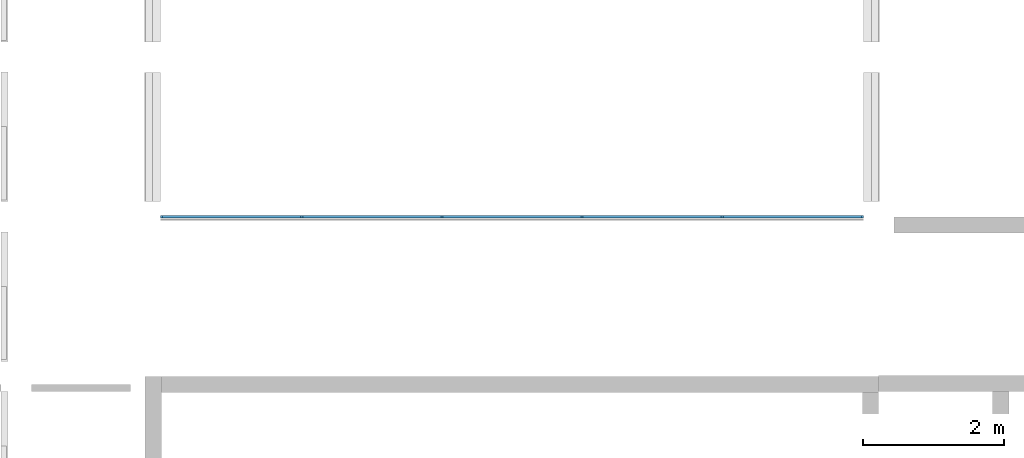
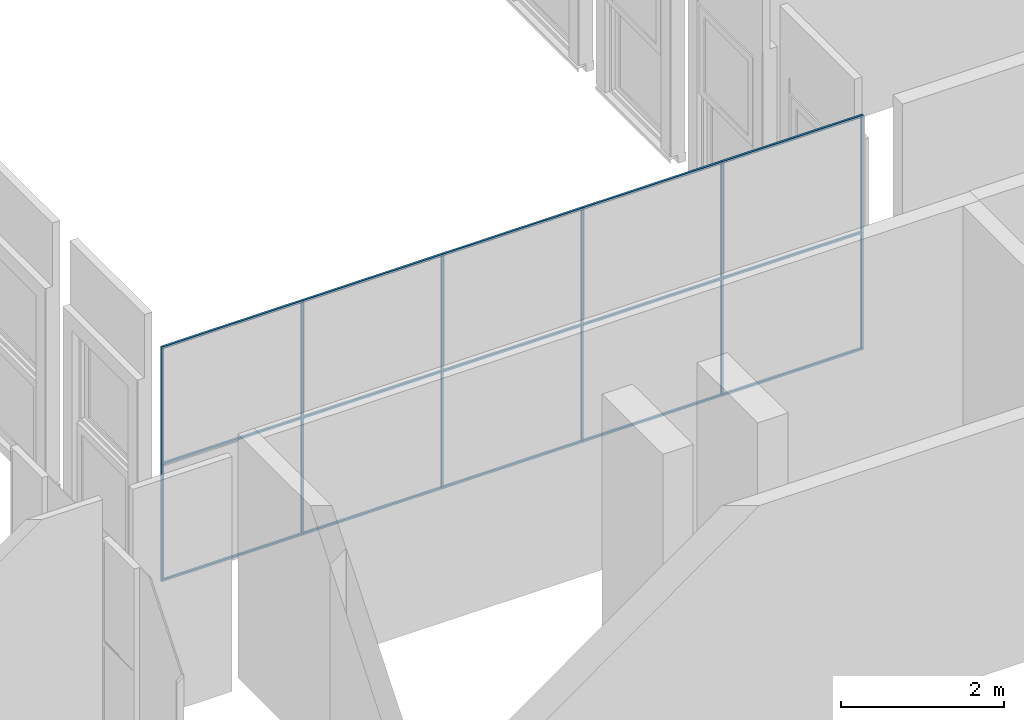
# One storey, part 1 of 13: 27 members, 1 element without a shape of its own.
"""IFC2X3 building model written with IfcOpenShell, lengths in millimetres."""

from ifc_helpers import new_model, entity, si_unit, converted_unit, derived_unit, direction, frame, origin, origin_2d_with_axis, place, context, subcontext, project, spatial, rectangle, extrude, source, transform, mapped, material, type_object, type_shapes, element, aggregate, save


model = new_model("IFC2X3")

# Units and contexts
model_context = context("Model", 3, precision=0.01, world=origin(), true_north=direction((6.12303176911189e-17, 1.0)))
body_context = subcontext(model_context, "Body", "Model", "MODEL_VIEW")
ifc_project = project(units=[si_unit("LENGTHUNIT", "METRE", prefix="MILLI"), si_unit("AREAUNIT", "SQUARE_METRE"), si_unit("VOLUMEUNIT", "CUBIC_METRE"), converted_unit("PLANEANGLEUNIT", "DEGREE", entity("IfcRatioMeasure", 0.0174532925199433), si_unit("PLANEANGLEUNIT", "RADIAN"), dimensions=[0, 0, 0, 0, 0, 0, 0]), si_unit("MASSUNIT", "GRAM", prefix="KILO"), derived_unit("MASSDENSITYUNIT", [(si_unit("MASSUNIT", "GRAM", prefix="KILO"), 1), (si_unit("LENGTHUNIT", "METRE"), -3)]), derived_unit("MOMENTOFINERTIAUNIT", [(si_unit("LENGTHUNIT", "METRE"), 4)]), si_unit("TIMEUNIT", "SECOND"), si_unit("FREQUENCYUNIT", "HERTZ"), si_unit("THERMODYNAMICTEMPERATUREUNIT", "DEGREE_CELSIUS"), derived_unit("THERMALTRANSMITTANCEUNIT", [(si_unit("MASSUNIT", "GRAM", prefix="KILO"), 1), (si_unit("THERMODYNAMICTEMPERATUREUNIT", "KELVIN"), -1), (si_unit("TIMEUNIT", "SECOND"), -3)]), derived_unit("VOLUMETRICFLOWRATEUNIT", [(si_unit("LENGTHUNIT", "METRE"), 3), (si_unit("TIMEUNIT", "SECOND"), -1)]), si_unit("ELECTRICCURRENTUNIT", "AMPERE"), si_unit("ELECTRICVOLTAGEUNIT", "VOLT"), si_unit("POWERUNIT", "WATT"), si_unit("FORCEUNIT", "NEWTON", prefix="KILO"), si_unit("ILLUMINANCEUNIT", "LUX"), si_unit("LUMINOUSFLUXUNIT", "LUMEN"), si_unit("LUMINOUSINTENSITYUNIT", "CANDELA"), derived_unit("USERDEFINED", [(si_unit("MASSUNIT", "GRAM", prefix="KILO"), -1), (si_unit("LENGTHUNIT", "METRE"), -2), (si_unit("TIMEUNIT", "SECOND"), 3), (si_unit("LUMINOUSFLUXUNIT", "LUMEN"), 1)]), derived_unit("LINEARVELOCITYUNIT", [(si_unit("LENGTHUNIT", "METRE"), 1), (si_unit("TIMEUNIT", "SECOND"), -1)]), si_unit("PRESSUREUNIT", "PASCAL"), derived_unit("USERDEFINED", [(si_unit("LENGTHUNIT", "METRE"), -2), (si_unit("MASSUNIT", "GRAM", prefix="KILO"), 1), (si_unit("TIMEUNIT", "SECOND"), -2)]), derived_unit("LINEARFORCEUNIT", [(si_unit("MASSUNIT", "GRAM", prefix="KILO"), 1), (si_unit("LENGTHUNIT", "METRE"), 1), (si_unit("TIMEUNIT", "SECOND"), -2), (si_unit("LENGTHUNIT", "METRE"), -1)]), derived_unit("PLANARFORCEUNIT", [(si_unit("MASSUNIT", "GRAM", prefix="KILO"), 1), (si_unit("LENGTHUNIT", "METRE"), 1), (si_unit("TIMEUNIT", "SECOND"), -2), (si_unit("LENGTHUNIT", "METRE"), -2)])], contexts=[model_context])

# Site, building, storey
site_placement = place(None, frame((10627.5135316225, 21939.0796949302, 0.0)))
site = spatial("IfcSite", under=ifc_project, at=site_placement, Name="Default", CompositionType="ELEMENT")
building_placement = place(site_placement, origin())
building = spatial("IfcBuilding", under=site, at=building_placement, CompositionType="ELEMENT")
storey_placement = place(building_placement, frame((0.0, 0.0, 7320.0)))
storey = spatial("IfcBuildingStorey", under=building, at=storey_placement, Name="R+2", CompositionType="ELEMENT", Elevation=7320.0)

# Curtain wall, members
curtain_wall_type = type_object("IfcCurtainWallType", Name="Curtain Wall:Curtain_Wall-Exterior_Glazing", PredefinedType="NOTDEFINED")
curtain_wall_placement = place(storey_placement, frame((0.0, 0.0, -7320.0)))
curtain_wall = element("IfcCurtainWall", 1, at=curtain_wall_placement, inside=storey, type_object=curtain_wall_type, Name="Curtain Wall:Curtain_Wall-Exterior_Glazing", ObjectType="Curtain Wall:Curtain_Wall-Exterior_Glazing")
ifc_material = material(Name="Aluminium")
member_type_1 = type_object("IfcMemberType", Name="Rectangular Mullion:30mm_Square", PredefinedType="MULLION", material=ifc_material)
shared_shape_1 = source(origin(), body_context, "Body", "SweptSolid", [
    extrude(rectangle(XDim=30.0, YDim=30.0, at=origin_2d_with_axis()), frame((-15.0, 0.0, -1999.0), z_axis=(0.0, 0.0, 1.0), x_axis=(0.0, -1.0, 0.0)), (0.0, 0.0, 1.0), 1999.00000018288),
])
type_shapes(member_type_1, [shared_shape_1])
member_1_placement = place(storey_placement, frame((1797.4864683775, -15159.0796949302, 3520.0), z_axis=(-1.0, 0.0, 0.0), x_axis=(0.0, 0.0, 1.0)))
member_1 = element("IfcMember", 2, at=member_1_placement, type_object=member_type_1, material=ifc_material, Name="Rectangular Mullion:30mm_Square", ObjectType="Rectangular Mullion:30mm_Square", context=body_context, shape_type="MappedRepresentation", body=[
    mapped(shared_shape_1, transform((0.0, 0.0, 0.0), scale=1.0)),
])
member_type_2 = type_object("IfcMemberType", Name="Rectangular Mullion:30mm_Square", PredefinedType="MULLION", material=ifc_material)
shared_shape_2 = source(origin(), body_context, "Body", "SweptSolid", [
    extrude(rectangle(XDim=30.0, YDim=30.0, at=origin_2d_with_axis()), frame((-15.0, 0.0, -1999.0), z_axis=(0.0, 0.0, 1.0), x_axis=(0.0, -1.0, 0.0)), (0.0, 0.0, 1.0), 1999.00000018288),
])
type_shapes(member_type_2, [shared_shape_2])
member_2_placement = place(storey_placement, frame((9748.48646819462, -15159.0796949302, 3520.0), z_axis=(-1.0, 0.0, 0.0), x_axis=(0.0, 0.0, 1.0)))
member_2 = element("IfcMember", 3, at=member_2_placement, type_object=member_type_2, material=ifc_material, Name="Rectangular Mullion:30mm_Square", ObjectType="Rectangular Mullion:30mm_Square", context=body_context, shape_type="MappedRepresentation", body=[
    mapped(shared_shape_2, transform((0.0, 0.0, 0.0), scale=1.0)),
])
member_type_3 = type_object("IfcMemberType", Name="Rectangular Mullion:30mm_Square", PredefinedType="MULLION", material=ifc_material)
shared_shape_3 = source(origin(), body_context, "Body", "SweptSolid", [
    extrude(rectangle(XDim=30.0, YDim=30.0, at=origin_2d_with_axis()), frame((-15.0, 0.0, -1984.0), z_axis=(0.0, 0.0, 1.0), x_axis=(0.0, -1.0, 0.0)), (0.0, 0.0, 1.0), 1983.99999987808),
])
type_shapes(member_type_3, [shared_shape_3])
member_3_placement = place(storey_placement, frame((7764.48646831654, -15159.0796949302, 3520.0), z_axis=(-1.0, 0.0, 0.0), x_axis=(0.0, 0.0, 1.0)))
member_3 = element("IfcMember", 4, at=member_3_placement, type_object=member_type_3, material=ifc_material, Name="Rectangular Mullion:30mm_Square", ObjectType="Rectangular Mullion:30mm_Square", context=body_context, shape_type="MappedRepresentation", body=[
    mapped(shared_shape_3, transform((0.0, 0.0, 0.0), scale=1.0)),
])
member_4_placement = place(storey_placement, frame((5780.48646843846, -15159.0796949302, 3520.0), z_axis=(-1.0, 0.0, 0.0), x_axis=(0.0, 0.0, 1.0)))
member_4 = element("IfcMember", 5, at=member_4_placement, type_object=member_type_3, material=ifc_material, Name="Rectangular Mullion:30mm_Square", ObjectType="Rectangular Mullion:30mm_Square", context=body_context, shape_type="MappedRepresentation", body=[
    mapped(shared_shape_3, transform((0.0, 0.0, 0.0), scale=1.0)),
])
member_5_placement = place(storey_placement, frame((3796.48646856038, -15159.0796949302, 3520.0), z_axis=(-1.0, 0.0, 0.0), x_axis=(0.0, 0.0, 1.0)))
member_5 = element("IfcMember", 6, at=member_5_placement, type_object=member_type_3, material=ifc_material, Name="Rectangular Mullion:30mm_Square", ObjectType="Rectangular Mullion:30mm_Square", context=body_context, shape_type="MappedRepresentation", body=[
    mapped(shared_shape_3, transform((0.0, 0.0, 0.0), scale=1.0)),
])
member_type_4 = type_object("IfcMemberType", Name="Rectangular Mullion:30mm_Square", PredefinedType="MULLION", material=ifc_material)
shared_shape_4 = source(origin(), body_context, "Body", "SweptSolid", [
    extrude(rectangle(XDim=30.0, YDim=30.0, at=origin_2d_with_axis()), frame((-15.0, 0.0, -1999.0), z_axis=(0.0, 0.0, 1.0), x_axis=(0.0, -1.0, 0.0)), (0.0, 0.0, 1.0), 1999.00000018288),
])
type_shapes(member_type_4, [shared_shape_4])
member_6_placement = place(storey_placement, frame((11747.4864683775, -15159.0796949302, 0.0), z_axis=(1.0, 0.0, 0.0), x_axis=(0.0, 0.0, -1.0)))
member_6 = element("IfcMember", 7, at=member_6_placement, type_object=member_type_4, material=ifc_material, Name="Rectangular Mullion:30mm_Square", ObjectType="Rectangular Mullion:30mm_Square", context=body_context, shape_type="MappedRepresentation", body=[
    mapped(shared_shape_4, transform((0.0, 0.0, 0.0), scale=1.0)),
])
member_type_5 = type_object("IfcMemberType", Name="Rectangular Mullion:30mm_Square", PredefinedType="MULLION", material=ifc_material)
shared_shape_5 = source(origin(), body_context, "Body", "SweptSolid", [
    extrude(rectangle(XDim=30.0, YDim=30.0, at=origin_2d_with_axis()), frame((-15.0, 0.0, -1984.0), z_axis=(0.0, 0.0, 1.0), x_axis=(0.0, -1.0, 0.0)), (0.0, 0.0, 1.0), 1983.99999987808),
])
type_shapes(member_type_5, [shared_shape_5])
member_7_placement = place(storey_placement, frame((9748.48646819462, -15159.0796949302, 0.0), z_axis=(1.0, 0.0, 0.0), x_axis=(0.0, 0.0, -1.0)))
member_7 = element("IfcMember", 8, at=member_7_placement, type_object=member_type_5, material=ifc_material, Name="Rectangular Mullion:30mm_Square", ObjectType="Rectangular Mullion:30mm_Square", context=body_context, shape_type="MappedRepresentation", body=[
    mapped(shared_shape_5, transform((0.0, 0.0, 0.0), scale=1.0)),
])
member_8_placement = place(storey_placement, frame((7764.48646831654, -15159.0796949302, 0.0), z_axis=(1.0, 0.0, 0.0), x_axis=(0.0, 0.0, -1.0)))
member_8 = element("IfcMember", 9, at=member_8_placement, type_object=member_type_5, material=ifc_material, Name="Rectangular Mullion:30mm_Square", ObjectType="Rectangular Mullion:30mm_Square", context=body_context, shape_type="MappedRepresentation", body=[
    mapped(shared_shape_5, transform((0.0, 0.0, 0.0), scale=1.0)),
])
member_9_placement = place(storey_placement, frame((5780.48646843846, -15159.0796949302, 0.0), z_axis=(1.0, 0.0, 0.0), x_axis=(0.0, 0.0, -1.0)))
member_9 = element("IfcMember", 10, at=member_9_placement, type_object=member_type_5, material=ifc_material, Name="Rectangular Mullion:30mm_Square", ObjectType="Rectangular Mullion:30mm_Square", context=body_context, shape_type="MappedRepresentation", body=[
    mapped(shared_shape_5, transform((0.0, 0.0, 0.0), scale=1.0)),
])
member_type_6 = type_object("IfcMemberType", Name="Rectangular Mullion:30mm_Square", PredefinedType="MULLION", material=ifc_material)
shared_shape_6 = source(origin(), body_context, "Body", "SweptSolid", [
    extrude(rectangle(XDim=30.0, YDim=30.0, at=origin_2d_with_axis()), frame((-15.0, 0.0, -1999.0), z_axis=(0.0, 0.0, 1.0), x_axis=(0.0, -1.0, 0.0)), (0.0, 0.0, 1.0), 1999.00000018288),
])
type_shapes(member_type_6, [shared_shape_6])
member_10_placement = place(storey_placement, frame((3796.48646856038, -15159.0796949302, 0.0), z_axis=(1.0, 0.0, 0.0), x_axis=(0.0, 0.0, -1.0)))
member_10 = element("IfcMember", 11, at=member_10_placement, type_object=member_type_6, material=ifc_material, Name="Rectangular Mullion:30mm_Square", ObjectType="Rectangular Mullion:30mm_Square", context=body_context, shape_type="MappedRepresentation", body=[
    mapped(shared_shape_6, transform((0.0, 0.0, 0.0), scale=1.0)),
])
member_type_7 = type_object("IfcMemberType", Name="Rectangular Mullion:30mm_Square", PredefinedType="MULLION", material=ifc_material)
shared_shape_7 = source(origin(), body_context, "Body", "SweptSolid", [
    extrude(rectangle(XDim=30.0, YDim=30.0, at=origin_2d_with_axis()), frame((0.0, 0.0, -1954.0), z_axis=(0.0, 0.0, 1.0), x_axis=(0.0, -1.0, 0.0)), (0.0, 0.0, 1.0), 1954.00000018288),
])
type_shapes(member_type_7, [shared_shape_7])
member_11_placement = place(storey_placement, frame((9763.48646819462, -15159.0796949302, 1760.0), z_axis=(-1.0, 0.0, 0.0), x_axis=(0.0, 0.0, 1.0)))
member_11 = element("IfcMember", 12, at=member_11_placement, type_object=member_type_7, material=ifc_material, Name="Rectangular Mullion:30mm_Square", ObjectType="Rectangular Mullion:30mm_Square", context=body_context, shape_type="MappedRepresentation", body=[
    mapped(shared_shape_7, transform((0.0, 0.0, 0.0), scale=1.0)),
])
member_12_placement = place(storey_placement, frame((7779.48646831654, -15159.0796949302, 1760.0), z_axis=(-1.0, 0.0, 0.0), x_axis=(0.0, 0.0, 1.0)))
member_12 = element("IfcMember", 13, at=member_12_placement, type_object=member_type_7, material=ifc_material, Name="Rectangular Mullion:30mm_Square", ObjectType="Rectangular Mullion:30mm_Square", context=body_context, shape_type="MappedRepresentation", body=[
    mapped(shared_shape_7, transform((0.0, 0.0, 0.0), scale=1.0)),
])
member_13_placement = place(storey_placement, frame((5795.48646843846, -15159.0796949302, 1760.0), z_axis=(-1.0, 0.0, 0.0), x_axis=(0.0, 0.0, 1.0)))
member_13 = element("IfcMember", 14, at=member_13_placement, type_object=member_type_7, material=ifc_material, Name="Rectangular Mullion:30mm_Square", ObjectType="Rectangular Mullion:30mm_Square", context=body_context, shape_type="MappedRepresentation", body=[
    mapped(shared_shape_7, transform((0.0, 0.0, 0.0), scale=1.0)),
])
member_14_placement = place(storey_placement, frame((3811.48646856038, -15159.0796949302, 1760.0), z_axis=(-1.0, 0.0, 0.0), x_axis=(0.0, 0.0, 1.0)))
member_14 = element("IfcMember", 15, at=member_14_placement, type_object=member_type_7, material=ifc_material, Name="Rectangular Mullion:30mm_Square", ObjectType="Rectangular Mullion:30mm_Square", context=body_context, shape_type="MappedRepresentation", body=[
    mapped(shared_shape_7, transform((0.0, 0.0, 0.0), scale=1.0)),
])
member_15_placement = place(storey_placement, frame((1827.4864683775, -15159.0796949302, 1760.0), z_axis=(-1.0, 0.0, 0.0), x_axis=(0.0, 0.0, 1.0)))
member_15 = element("IfcMember", 16, at=member_15_placement, type_object=member_type_7, material=ifc_material, Name="Rectangular Mullion:30mm_Square", ObjectType="Rectangular Mullion:30mm_Square", context=body_context, shape_type="MappedRepresentation", body=[
    mapped(shared_shape_7, transform((0.0, 0.0, 0.0), scale=1.0)),
])
member_type_8 = type_object("IfcMemberType", Name="Rectangular Mullion:30mm_Square", PredefinedType="MULLION", material=ifc_material)
shared_shape_8 = source(origin(), body_context, "Body", "SweptSolid", [
    extrude(rectangle(XDim=30.0, YDim=30.0, at=origin_2d_with_axis()), frame((-15.0, 0.0, -1730.0), z_axis=(0.0, 0.0, 1.0), x_axis=(0.0, -1.0, 0.0)), (0.0, 0.0, 1.0), 1730.0),
])
type_shapes(member_type_8, [shared_shape_8])
member_16_placement = place(storey_placement, frame((1797.4864683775, -15159.0796949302, 30.0), z_axis=(0.0, 0.0, -1.0), x_axis=(-1.0, 0.0, 0.0)))
member_16 = element("IfcMember", 17, at=member_16_placement, type_object=member_type_8, material=ifc_material, Name="Rectangular Mullion:30mm_Square", ObjectType="Rectangular Mullion:30mm_Square", context=body_context, shape_type="MappedRepresentation", body=[
    mapped(shared_shape_8, transform((0.0, 0.0, 0.0), scale=1.0)),
])
member_type_9 = type_object("IfcMemberType", Name="Rectangular Mullion:30mm_Square", PredefinedType="MULLION", material=ifc_material)
shared_shape_9 = source(origin(), body_context, "Body", "SweptSolid", [
    extrude(rectangle(XDim=30.0, YDim=30.0, at=origin_2d_with_axis()), frame((-15.0, 0.0, -1730.0), z_axis=(0.0, 0.0, 1.0), x_axis=(0.0, -1.0, 0.0)), (0.0, 0.0, 1.0), 1730.0),
])
type_shapes(member_type_9, [shared_shape_9])
member_17_placement = place(storey_placement, frame((1797.4864683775, -15159.0796949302, 1760.0), z_axis=(0.0, 0.0, -1.0), x_axis=(-1.0, 0.0, 0.0)))
member_17 = element("IfcMember", 18, at=member_17_placement, type_object=member_type_9, material=ifc_material, Name="Rectangular Mullion:30mm_Square", ObjectType="Rectangular Mullion:30mm_Square", context=body_context, shape_type="MappedRepresentation", body=[
    mapped(shared_shape_9, transform((0.0, 0.0, 0.0), scale=1.0)),
])
member_type_10 = type_object("IfcMemberType", Name="Rectangular Mullion:30mm_Square", PredefinedType="MULLION", material=ifc_material)
shared_shape_10 = source(origin(), body_context, "Body", "SweptSolid", [
    extrude(rectangle(XDim=30.0, YDim=30.0, at=origin_2d_with_axis()), frame((-15.0, 0.0, -1730.0), z_axis=(0.0, 0.0, 1.0), x_axis=(0.0, -1.0, 0.0)), (0.0, 0.0, 1.0), 1730.0),
])
type_shapes(member_type_10, [shared_shape_10])
member_18_placement = place(storey_placement, frame((11747.4864683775, -15159.0796949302, 3490.0)))
member_18 = element("IfcMember", 19, at=member_18_placement, type_object=member_type_10, material=ifc_material, Name="Rectangular Mullion:30mm_Square", ObjectType="Rectangular Mullion:30mm_Square", context=body_context, shape_type="MappedRepresentation", body=[
    mapped(shared_shape_10, transform((0.0, 0.0, 0.0), scale=1.0)),
])
member_type_11 = type_object("IfcMemberType", Name="Rectangular Mullion:30mm_Square", PredefinedType="MULLION", material=ifc_material)
shared_shape_11 = source(origin(), body_context, "Body", "SweptSolid", [
    extrude(rectangle(XDim=30.0, YDim=30.0, at=origin_2d_with_axis()), frame((-15.0, 0.0, -1730.0), z_axis=(0.0, 0.0, 1.0), x_axis=(0.0, -1.0, 0.0)), (0.0, 0.0, 1.0), 1730.0),
])
type_shapes(member_type_11, [shared_shape_11])
member_19_placement = place(storey_placement, frame((11747.4864683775, -15159.0796949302, 1760.0)))
member_19 = element("IfcMember", 20, at=member_19_placement, type_object=member_type_11, material=ifc_material, Name="Rectangular Mullion:30mm_Square", ObjectType="Rectangular Mullion:30mm_Square", context=body_context, shape_type="MappedRepresentation", body=[
    mapped(shared_shape_11, transform((0.0, 0.0, 0.0), scale=1.0)),
])
member_type_12 = type_object("IfcMemberType", Name="Rectangular Mullion:30mm_Square", PredefinedType="MULLION", material=ifc_material)
shared_shape_12 = source(origin(), body_context, "Body", "SweptSolid", [
    extrude(rectangle(XDim=30.0, YDim=30.0, at=origin_2d_with_axis()), frame((0.0, 0.0, -1730.0), z_axis=(0.0, 0.0, 1.0), x_axis=(0.0, -1.0, 0.0)), (0.0, 0.0, 1.0), 1730.0),
])
type_shapes(member_type_12, [shared_shape_12])
member_20_placement = place(storey_placement, frame((9748.48646819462, -15159.0796949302, 30.0), z_axis=(0.0, 0.0, -1.0), x_axis=(-1.0, 0.0, 0.0)))
member_20 = element("IfcMember", 21, at=member_20_placement, type_object=member_type_12, material=ifc_material, Name="Rectangular Mullion:30mm_Square", ObjectType="Rectangular Mullion:30mm_Square", context=body_context, shape_type="MappedRepresentation", body=[
    mapped(shared_shape_12, transform((0.0, 0.0, 0.0), scale=1.0)),
])
member_21_placement = place(storey_placement, frame((7764.48646831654, -15159.0796949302, 30.0), z_axis=(0.0, 0.0, -1.0), x_axis=(-1.0, 0.0, 0.0)))
member_21 = element("IfcMember", 22, at=member_21_placement, type_object=member_type_12, material=ifc_material, Name="Rectangular Mullion:30mm_Square", ObjectType="Rectangular Mullion:30mm_Square", context=body_context, shape_type="MappedRepresentation", body=[
    mapped(shared_shape_12, transform((0.0, 0.0, 0.0), scale=1.0)),
])
member_22_placement = place(storey_placement, frame((5780.48646843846, -15159.0796949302, 30.0), z_axis=(0.0, 0.0, -1.0), x_axis=(-1.0, 0.0, 0.0)))
member_22 = element("IfcMember", 23, at=member_22_placement, type_object=member_type_12, material=ifc_material, Name="Rectangular Mullion:30mm_Square", ObjectType="Rectangular Mullion:30mm_Square", context=body_context, shape_type="MappedRepresentation", body=[
    mapped(shared_shape_12, transform((0.0, 0.0, 0.0), scale=1.0)),
])
member_23_placement = place(storey_placement, frame((3796.48646856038, -15159.0796949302, 30.0), z_axis=(0.0, 0.0, -1.0), x_axis=(-1.0, 0.0, 0.0)))
member_23 = element("IfcMember", 24, at=member_23_placement, type_object=member_type_12, material=ifc_material, Name="Rectangular Mullion:30mm_Square", ObjectType="Rectangular Mullion:30mm_Square", context=body_context, shape_type="MappedRepresentation", body=[
    mapped(shared_shape_12, transform((0.0, 0.0, 0.0), scale=1.0)),
])
member_type_13 = type_object("IfcMemberType", Name="Rectangular Mullion:30mm_Square", PredefinedType="MULLION", material=ifc_material)
shared_shape_13 = source(origin(), body_context, "Body", "SweptSolid", [
    extrude(rectangle(XDim=30.0, YDim=30.0, at=origin_2d_with_axis()), frame((0.0, 0.0, -1730.0), z_axis=(0.0, 0.0, 1.0), x_axis=(0.0, -1.0, 0.0)), (0.0, 0.0, 1.0), 1730.0),
])
type_shapes(member_type_13, [shared_shape_13])
member_24_placement = place(storey_placement, frame((9748.48646819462, -15159.0796949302, 1760.0), z_axis=(0.0, 0.0, -1.0), x_axis=(-1.0, 0.0, 0.0)))
member_24 = element("IfcMember", 25, at=member_24_placement, type_object=member_type_13, material=ifc_material, Name="Rectangular Mullion:30mm_Square", ObjectType="Rectangular Mullion:30mm_Square", context=body_context, shape_type="MappedRepresentation", body=[
    mapped(shared_shape_13, transform((0.0, 0.0, 0.0), scale=1.0)),
])
member_25_placement = place(storey_placement, frame((7764.48646831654, -15159.0796949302, 1760.0), z_axis=(0.0, 0.0, -1.0), x_axis=(-1.0, 0.0, 0.0)))
member_25 = element("IfcMember", 26, at=member_25_placement, type_object=member_type_13, material=ifc_material, Name="Rectangular Mullion:30mm_Square", ObjectType="Rectangular Mullion:30mm_Square", context=body_context, shape_type="MappedRepresentation", body=[
    mapped(shared_shape_13, transform((0.0, 0.0, 0.0), scale=1.0)),
])
member_26_placement = place(storey_placement, frame((5780.48646843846, -15159.0796949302, 1760.0), z_axis=(0.0, 0.0, -1.0), x_axis=(-1.0, 0.0, 0.0)))
member_26 = element("IfcMember", 27, at=member_26_placement, type_object=member_type_13, material=ifc_material, Name="Rectangular Mullion:30mm_Square", ObjectType="Rectangular Mullion:30mm_Square", context=body_context, shape_type="MappedRepresentation", body=[
    mapped(shared_shape_13, transform((0.0, 0.0, 0.0), scale=1.0)),
])
member_27_placement = place(storey_placement, frame((3796.48646856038, -15159.0796949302, 1760.0), z_axis=(0.0, 0.0, -1.0), x_axis=(-1.0, 0.0, 0.0)))
member_27 = element("IfcMember", 28, at=member_27_placement, type_object=member_type_13, material=ifc_material, Name="Rectangular Mullion:30mm_Square", ObjectType="Rectangular Mullion:30mm_Square", context=body_context, shape_type="MappedRepresentation", body=[
    mapped(shared_shape_13, transform((0.0, 0.0, 0.0), scale=1.0)),
])
aggregate(curtain_wall, [member_1, member_2, member_3, member_4, member_5, member_6, member_7, member_8, member_9, member_10, member_11, member_12, member_13, member_14, member_15, member_16, member_17, member_18, member_19, member_20, member_24, member_21, member_22, member_23, member_25, member_26, member_27])

save(model, "model.ifc")
